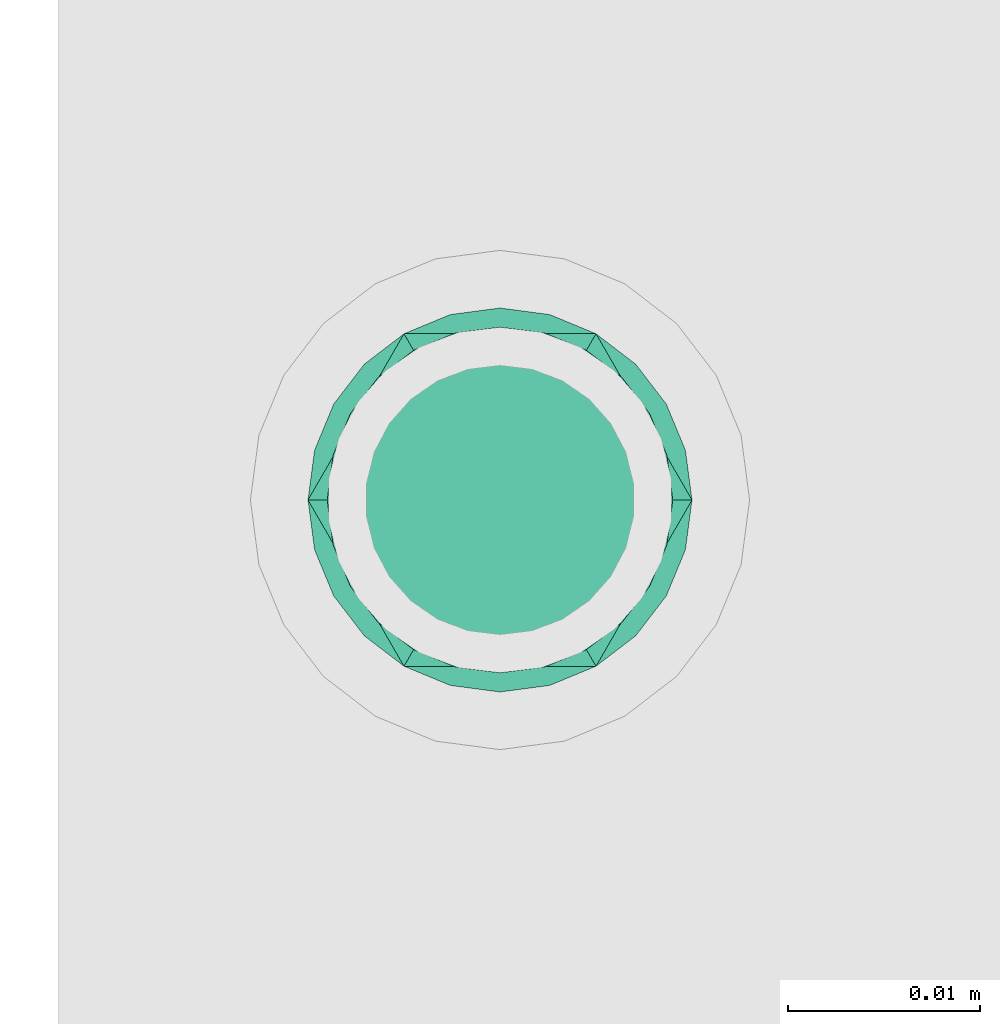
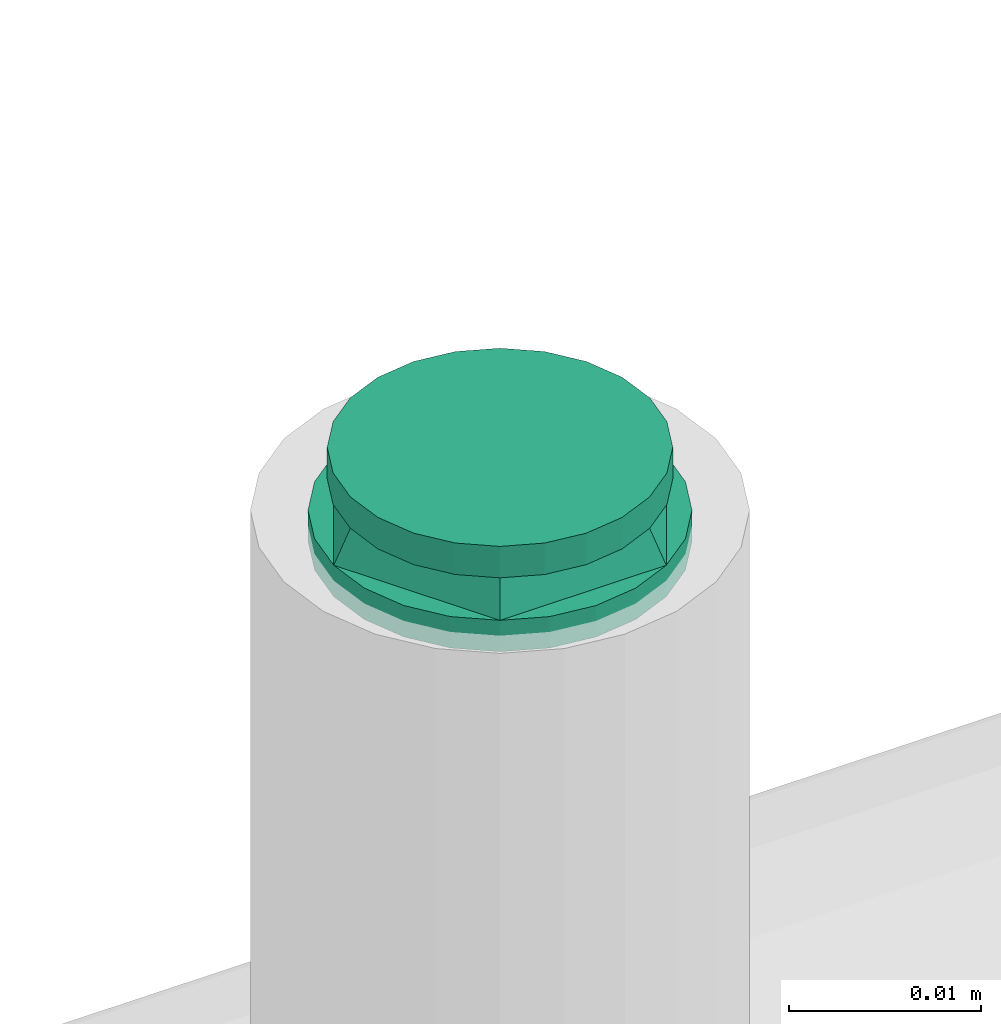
# One storey, part 18 of 18: 1 flow fitting.
"""IFC2X3 building model written with IfcOpenShell, lengths in millimetres."""

from ifc_helpers import new_model, entity, si_unit, converted_unit, derived_unit, direction, frame, origin_with_axes, place, context, subcontext, project, spatial, open_shell, surface_model, source, transform, mapped, type_object, element, save


model = new_model("IFC2X3")

# Units and contexts
model_context = context("Model", 3, precision=0.01, world=frame((0.0, 4.29681676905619e-09, 0.0)), true_north=direction((4.01073788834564e-13, 1.0)))
plan_context = context("Plan", 3, precision=0.01, world=frame((0.0, 4.29681676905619e-09, 0.0)), true_north=direction((4.01073788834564e-13, 1.0)))
body_context = subcontext(model_context, "Body", "Model", "MODEL_VIEW")
ifc_project = project(units=[converted_unit("PLANEANGLEUNIT", "DEGREE", entity("IfcPositiveLengthMeasure", 0.0174532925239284), si_unit("PLANEANGLEUNIT", "RADIAN"), dimensions=[0, 0, 0, 0, 0, 0, 0]), si_unit("AREAUNIT", "SQUARE_METRE"), si_unit("LENGTHUNIT", "METRE", prefix="MILLI"), si_unit("MASSUNIT", "GRAM", prefix="KILO"), si_unit("POWERUNIT", "WATT"), si_unit("PRESSUREUNIT", "PASCAL", prefix="KILO"), si_unit("FORCEUNIT", "NEWTON", prefix="KILO"), si_unit("ELECTRICVOLTAGEUNIT", "VOLT"), si_unit("ELECTRICCURRENTUNIT", "AMPERE"), si_unit("THERMODYNAMICTEMPERATUREUNIT", "DEGREE_CELSIUS"), si_unit("TIMEUNIT", "SECOND"), si_unit("VOLUMEUNIT", "CUBIC_METRE"), derived_unit("LINEARVELOCITYUNIT", [(si_unit("LENGTHUNIT", "METRE"), 1), (si_unit("TIMEUNIT", "SECOND"), -1)]), derived_unit("VOLUMETRICFLOWRATEUNIT", [(si_unit("VOLUMEUNIT", "CUBIC_METRE"), 1), (si_unit("TIMEUNIT", "SECOND"), -1)]), derived_unit("THERMALTRANSMITTANCEUNIT", [(si_unit("POWERUNIT", "WATT"), 1), (si_unit("THERMODYNAMICTEMPERATUREUNIT", "KELVIN"), -1), (si_unit("AREAUNIT", "SQUARE_METRE"), -1)]), derived_unit("SOUNDPRESSUREUNIT", [(si_unit("PRESSUREUNIT", "PASCAL"), 1)])], contexts=[model_context, plan_context])

# Site, building, storey
site_placement = place(None, frame((0.0, -4.29681676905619e-09, 0.0), z_axis=(0.0, 0.0, 1.0), x_axis=(1.0, 0.0, 0.0)))
site = spatial("IfcSite", under=ifc_project, at=site_placement, Name="ENGM", CompositionType="ELEMENT")
building_placement = place(site_placement, frame((0.0, 4.29681676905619e-09, 0.0), z_axis=(0.0, 0.0, 1.0), x_axis=(1.0, 0.0, 0.0)))
building = spatial("IfcBuilding", under=site, at=building_placement, Name="TI", CompositionType="ELEMENT")
storey_placement = place(building_placement, frame((0.0, 0.0, 204000.0), z_axis=(0.0, 0.0, 1.0), x_axis=(1.0, 0.0, 0.0)))
storey = spatial("IfcBuildingStorey", under=building, at=storey_placement, Name="Nivå D", CompositionType="ELEMENT", Elevation=204000.0)

# Flow fitting
pipe_fitting_type = type_object("IfcPipeFittingType", Name="magi_pipe_cu_reducer_centric_short_001", PredefinedType="TRANSITION")
shared_shape = source(origin_with_axes(), body_context, "Body", "SurfaceModel", [
    surface_model("IfcShellBasedSurfaceModel", [(-2.0, 2.58819, -9.65926), (-2.0, 0.0, -10.0), (-2.0, -2.58819, -9.65926), (0.0, -2.58819, -9.65926), (0.0, 0.0, -10.0), (0.0, 2.58819, -9.65926), (0.0, 5.0, 8.66025), (0.0, -10.0, 0.0), (0.0, -5.0, 8.66025), (4.0, -2.32937, -8.69333), (4.0, 6.36396, -6.36396), (4.0, -4.5, -7.79423), (4.0, -6.36396, -6.36396), (4.0, -8.69333, -2.32937), (4.0, -7.79423, -4.5), (4.0, 8.69333, -2.32937), (4.0, 6.36396, 6.36396), (4.0, 2.32937, -8.69333), (4.0, 4.5, -7.79423), (4.0, 0.0, -9.0), (4.0, 7.79423, -4.5), (4.0, -8.69333, 2.32937), (4.0, -9.0, 0.0), (4.0, -7.79423, 4.5), (4.0, -6.36396, 6.36396), (4.0, 0.0, 9.0), (4.0, -2.32937, 8.69333), (4.0, -4.5, 7.79423), (4.0, 7.79423, 4.5), (4.0, 8.69333, 2.32937), (4.0, 9.0, 0.0), (4.0, 4.5, 7.79423), (4.0, 2.32937, 8.69333), (2.0, -4.5, 7.79423), (2.0, -2.32937, 8.69333), (2.0, 0.0, 9.0), (2.0, -6.36396, 6.36396), (2.0, 8.69333, -2.32937), (2.0, 2.32937, 8.69333), (2.0, -7.79423, 4.5), (2.0, 4.5, 7.79423), (2.0, 6.36396, 6.36396), (2.0, 9.0, 0.0), (2.0, 7.79423, 4.5), (2.0, 8.69333, 2.32937), (2.0, -8.69333, 2.32937), (2.0, -8.69333, -2.32937), (2.0, -7.79423, -4.5), (2.0, -6.36396, -6.36396), (2.0, -4.5, -7.79423), (2.0, -2.32937, -8.69333), (2.0, 4.5, -7.79423), (2.0, 7.79423, -4.5), (2.0, 6.36396, -6.36396), (2.0, 2.32937, -8.69333), (2.0, 0.0, -9.0), (2.0, -9.0, 0.0), (-2.0, -5.0, 8.66025), (-2.0, -2.58819, 9.65926), (-2.0, 0.0, 10.0), (-2.0, 7.07107, 7.07107), (-2.0, -8.66025, 5.0), (-2.0, -7.07107, 7.07107), (-2.0, 10.0, 0.0), (-2.0, 9.65926, -2.58819), (-2.0, 5.0, 8.66025), (-2.0, 2.58819, 9.65926), (-2.0, 8.66025, 5.0), (-2.0, 9.65926, 2.58819), (-2.0, -10.0, 0.0), (-2.0, -9.65926, 2.58819), (-2.0, -8.66025, -5.0), (-2.0, -9.65926, -2.58819), (-2.0, -5.0, -8.66025), (-2.0, -7.07107, -7.07107), (-2.0, 8.66025, -5.0), (-2.0, 7.07107, -7.07107), (-2.0, 5.0, -8.66025), (0.0, -7.07107, -7.07107), (0.0, -5.0, -8.66025), (0.0, -8.66025, -5.0), (0.0, -9.65926, -2.58819), (0.0, 10.0, 0.0), (0.0, 7.07107, -7.07107), (0.0, 5.0, -8.66025), (0.0, 8.66025, -5.0), (0.0, 9.65926, -2.58819), (0.0, -7.07107, 7.07107), (0.0, -8.66025, 5.0), (0.0, 0.0, 10.0), (0.0, -2.58819, 9.65926), (0.0, 9.65926, 2.58819), (0.0, 7.07107, 7.07107), (0.0, 8.66025, 5.0), (0.0, 2.58819, 9.65926), (0.0, -9.65926, 2.58819)], [open_shell([[[0, 1, 2]], [[3, 4, 5]], [[6, 7, 8]], [[9, 10, 11]], [[12, 11, 13]], [[13, 11, 10]], [[14, 12, 13]], [[13, 15, 16]], [[17, 18, 19]], [[10, 19, 18]], [[20, 15, 10]], [[9, 19, 10]], [[10, 15, 13]], [[21, 22, 13]], [[13, 16, 23]], [[24, 23, 25]], [[25, 26, 27]], [[24, 25, 27]], [[25, 23, 16]], [[28, 16, 29]], [[29, 15, 30]], [[31, 32, 16]], [[16, 15, 29]], [[25, 16, 32]], [[21, 13, 23]], [[33, 34, 35]], [[36, 33, 35]], [[37, 35, 38]], [[36, 35, 39]], [[35, 37, 39]], [[40, 41, 38]], [[42, 38, 41]], [[43, 44, 41]], [[42, 41, 44]], [[37, 38, 42]], [[45, 39, 46]], [[46, 39, 37]], [[47, 46, 48]], [[49, 46, 37]], [[48, 46, 49]], [[50, 49, 51]], [[52, 53, 37]], [[53, 49, 37]], [[54, 55, 51]], [[49, 53, 51]], [[50, 51, 55]], [[56, 45, 46]], [[42, 15, 37]], [[37, 20, 52]], [[51, 53, 18]], [[10, 53, 52]], [[54, 51, 17]], [[15, 20, 37]], [[42, 30, 15]], [[51, 18, 17]], [[18, 53, 10]], [[52, 20, 10]], [[54, 17, 19]], [[19, 55, 54]], [[55, 9, 50]], [[50, 11, 49]], [[47, 48, 14]], [[12, 48, 49]], [[46, 47, 13]], [[11, 12, 49]], [[50, 9, 11]], [[46, 13, 22]], [[13, 47, 14]], [[48, 12, 14]], [[46, 22, 56]], [[19, 9, 55]], [[56, 21, 45]], [[45, 23, 39]], [[33, 36, 27]], [[24, 36, 39]], [[34, 33, 26]], [[21, 23, 45]], [[56, 22, 21]], [[33, 27, 26]], [[27, 36, 24]], [[39, 23, 24]], [[34, 26, 25]], [[25, 35, 34]], [[35, 32, 38]], [[38, 31, 40]], [[43, 41, 28]], [[16, 41, 40]], [[44, 43, 29]], [[31, 16, 40]], [[38, 32, 31]], [[44, 29, 30]], [[29, 43, 28]], [[41, 16, 28]], [[44, 30, 42]], [[25, 32, 35]], [[57, 58, 59]], [[57, 59, 60]], [[61, 62, 60]], [[62, 57, 60]], [[63, 64, 61]], [[65, 60, 66]], [[60, 59, 66]], [[67, 68, 60]], [[63, 60, 68]], [[60, 63, 61]], [[69, 70, 61]], [[71, 72, 69]], [[64, 71, 61]], [[2, 73, 74]], [[71, 2, 74]], [[2, 71, 64]], [[75, 76, 64]], [[76, 2, 64]], [[77, 0, 76]], [[76, 0, 2]], [[69, 61, 71]], [[78, 79, 3]], [[80, 78, 3]], [[7, 81, 80]], [[82, 80, 3]], [[3, 83, 82]], [[84, 83, 5]], [[85, 86, 83]], [[3, 5, 83]], [[83, 86, 82]], [[7, 80, 82]], [[7, 87, 88]], [[87, 7, 82]], [[89, 90, 8]], [[91, 8, 87]], [[8, 92, 89]], [[93, 92, 91]], [[87, 82, 91]], [[92, 6, 89]], [[8, 91, 92]], [[94, 89, 6]], [[95, 7, 88]], [[63, 86, 64]], [[64, 85, 75]], [[77, 76, 84]], [[83, 76, 75]], [[0, 77, 5]], [[86, 85, 64]], [[63, 82, 86]], [[77, 84, 5]], [[84, 76, 83]], [[75, 85, 83]], [[0, 5, 4]], [[4, 1, 0]], [[1, 3, 2]], [[2, 79, 73]], [[71, 74, 80]], [[78, 74, 73]], [[72, 71, 81]], [[79, 78, 73]], [[2, 3, 79]], [[72, 81, 7]], [[81, 71, 80]], [[74, 78, 80]], [[72, 7, 69]], [[4, 3, 1]], [[69, 95, 70]], [[70, 88, 61]], [[57, 62, 8]], [[87, 62, 61]], [[58, 57, 90]], [[95, 88, 70]], [[69, 7, 95]], [[57, 8, 90]], [[8, 62, 87]], [[61, 88, 87]], [[58, 90, 89]], [[89, 59, 58]], [[59, 94, 66]], [[66, 6, 65]], [[67, 60, 93]], [[92, 60, 65]], [[68, 67, 91]], [[6, 92, 65]], [[66, 94, 6]], [[68, 91, 82]], [[91, 67, 93]], [[60, 92, 93]], [[68, 82, 63]], [[89, 94, 59]], [[42, 40, 33]], [[49, 42, 33]], [[56, 49, 33]], [[51, 42, 49]], [[84, 7, 6]], [[82, 84, 6]], [[79, 7, 84]], [[7, 49, 56]], [[49, 7, 79]], [[79, 51, 49]], [[84, 42, 51]], [[42, 84, 82]], [[79, 84, 51]], [[82, 40, 42]], [[40, 82, 6]], [[6, 33, 40]], [[8, 56, 33]], [[56, 8, 7]], [[6, 8, 33]]])]),
])
flow_fitting_placement = place(storey_placement, frame((591223.82673, 574995.92031, 7275.24650000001), z_axis=(0.0, 1.0, 0.0), x_axis=(0.0, 0.0, 1.0)))
element("IfcFlowFitting", 1, at=flow_fitting_placement, inside=storey, type_object=pipe_fitting_type, Name="magi_pipe_cu_reducer_centric_short_001", context=body_context, shape_type="MappedRepresentation", body=[
    mapped(shared_shape, transform((0.0, 0.0, 0.0), scale=1.0)),
])

save(model, "model.ifc")
